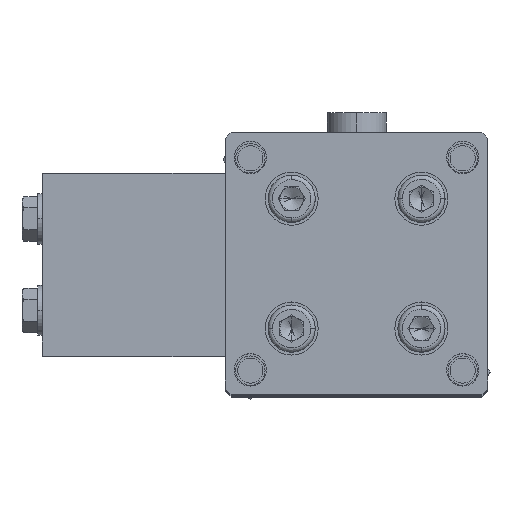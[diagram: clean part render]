
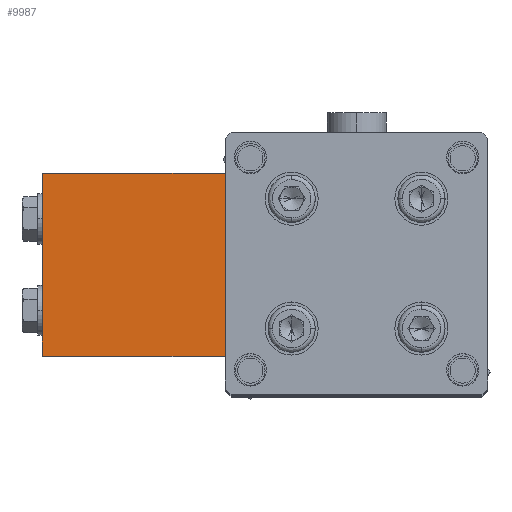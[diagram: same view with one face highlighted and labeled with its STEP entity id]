
A CAD part, top view. The second image highlights one B-rep face of the part: STEP entity #9987.
In plain terms, the highlighted planar face has unit normal (0, 0, 1).
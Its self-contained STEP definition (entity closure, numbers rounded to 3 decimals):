
#120 = LINE ( 'NONE', #8156, #2093 ) ;
#163 = CARTESIAN_POINT ( 'NONE',  ( -75.5, 31., -161.4 ) ) ;
#471 = DIRECTION ( 'NONE',  ( -1., 0., 0. ) ) ;
#521 = VECTOR ( 'NONE', #11235, 1000. ) ;
#857 = EDGE_CURVE ( 'NONE', #5001, #5852, #7744, .T. ) ;
#2093 = VECTOR ( 'NONE', #2374, 1000. ) ;
#2374 = DIRECTION ( 'NONE',  ( 0., 1., 0. ) ) ;
#2543 = DIRECTION ( 'NONE',  ( 1., 0., 0. ) ) ;
#2996 = ORIENTED_EDGE ( 'NONE', *, *, #857, .F. ) ;
#3102 = LINE ( 'NONE', #7374, #521 ) ;
#3300 = VECTOR ( 'NONE', #2543, 1000. ) ;
#3459 = CARTESIAN_POINT ( 'NONE',  ( -75.5, -31., -161.4 ) ) ;
#3553 = EDGE_CURVE ( 'NONE', #9126, #9935, #8724, .T. ) ;
#5001 = VERTEX_POINT ( 'NONE', #5453 ) ;
#5421 = CARTESIAN_POINT ( 'NONE',  ( -44.5, -31., -161.4 ) ) ;
#5453 = CARTESIAN_POINT ( 'NONE',  ( -44.5, -31., -161.4 ) ) ;
#5710 = AXIS2_PLACEMENT_3D ( 'NONE', #5421, #12120, #6388 ) ;
#5852 = VERTEX_POINT ( 'NONE', #9213 ) ;
#6385 = EDGE_CURVE ( 'NONE', #5001, #9935, #120, .T. ) ;
#6388 = DIRECTION ( 'NONE',  ( -1., 0., 0. ) ) ;
#6661 = ORIENTED_EDGE ( 'NONE', *, *, #3553, .F. ) ;
#7374 = CARTESIAN_POINT ( 'NONE',  ( -106.5, 0., -161.4 ) ) ;
#7744 = LINE ( 'NONE', #3459, #10266 ) ;
#7827 = ORIENTED_EDGE ( 'NONE', *, *, #6385, .T. ) ;
#8079 = ORIENTED_EDGE ( 'NONE', *, *, #8266, .F. ) ;
#8156 = CARTESIAN_POINT ( 'NONE',  ( -44.5, 0., -161.4 ) ) ;
#8266 = EDGE_CURVE ( 'NONE', #5852, #9126, #3102, .T. ) ;
#8352 = EDGE_LOOP ( 'NONE', ( #6661, #8079, #2996, #7827 ) ) ;
#8627 = FACE_OUTER_BOUND ( 'NONE', #8352, .T. ) ;
#8724 = LINE ( 'NONE', #163, #3300 ) ;
#8789 = CARTESIAN_POINT ( 'NONE',  ( -106.5, 31., -161.4 ) ) ;
#9126 = VERTEX_POINT ( 'NONE', #8789 ) ;
#9140 = CARTESIAN_POINT ( 'NONE',  ( -44.5, 31., -161.4 ) ) ;
#9213 = CARTESIAN_POINT ( 'NONE',  ( -106.5, -31., -161.4 ) ) ;
#9935 = VERTEX_POINT ( 'NONE', #9140 ) ;
#9987 = ADVANCED_FACE ( 'NONE', ( #8627 ), #10190, .F. ) ;
#10190 = PLANE ( 'NONE',  #5710 ) ;
#10266 = VECTOR ( 'NONE', #471, 1000. ) ;
#11235 = DIRECTION ( 'NONE',  ( 0., 1., 0. ) ) ;
#12120 = DIRECTION ( 'NONE',  ( 0., 0., -1. ) ) ;
